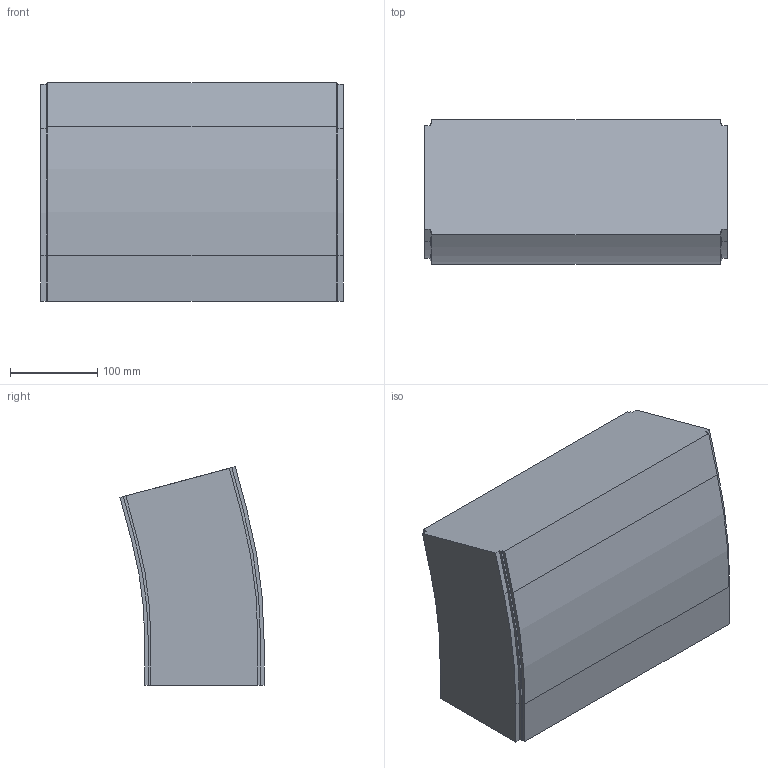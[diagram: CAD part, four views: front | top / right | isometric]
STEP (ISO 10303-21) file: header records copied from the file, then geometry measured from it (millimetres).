
FILE_DESCRIPTION (( 'STEP AP214' ), '1' );
FILE_NAME ('FS-MTC2-150-INOX verticaalbocht.350 15°.STEP', '2017-02-08T12:42:00', ( '' ), ( '' ), 'SwSTEP 2.0', 'SolidWorks 2016', '' );
FILE_SCHEMA (( 'AUTOMOTIVE_DESIGN' ));
Length unit declared in the file: millimetre
Products named in the file (1): FS-MTC2-150-INOX verticaalbocht.350 15°
Bounding box: 346 x 164.8 x 250.28 mm (x, y, z)
Volume: 11094504.1 mm3; surface area: 321704.4 mm2
Topology: 1 solids, 1 shells, 42 faces, 120 edges, 80 vertices
Faces by surface type: plane 32, cylinder 10
Entity records: 1398 total; most frequent: CARTESIAN_POINT 243, ORIENTED_EDGE 240, DIRECTION 226, EDGE_CURVE 120, VECTOR 100, LINE 100, VERTEX_POINT 80, AXIS2_PLACEMENT_3D 63
